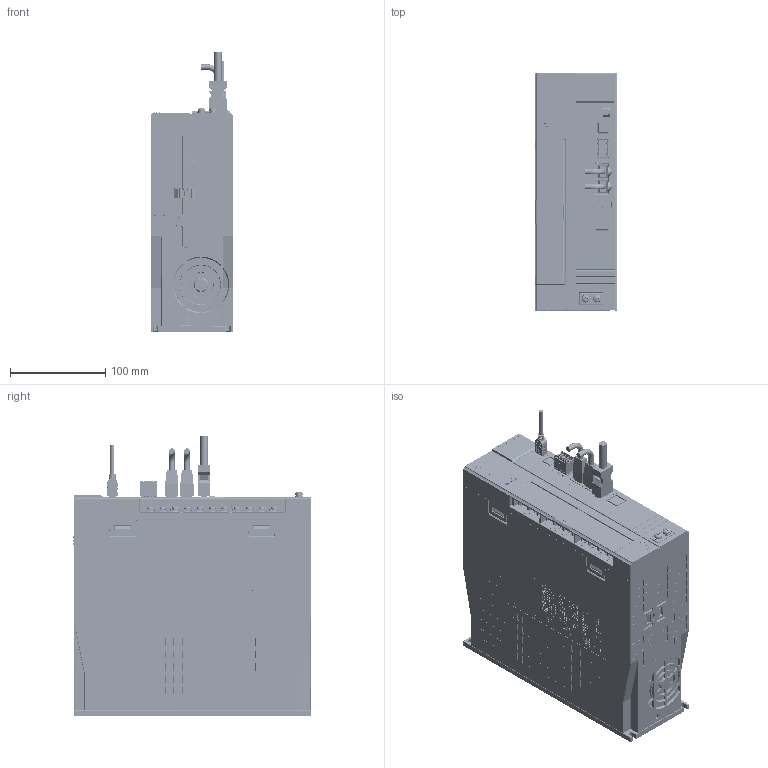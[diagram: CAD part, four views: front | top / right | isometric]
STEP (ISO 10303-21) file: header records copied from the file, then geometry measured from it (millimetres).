
FILE_DESCRIPTION(('CATIA V5 STEP Exchange'),'2;1');
FILE_NAME('C:\Users\xinje\Desktop\DS5C2-45P5-PTA-官网图+EPLAN图-240423.stp','2024-04-24T02:56:11+00:00',('none'),('none'),'CATIA Version 5 Release 20 GA (IN-10)','CATIA V5 STEP AP203','none');
FILE_SCHEMA(('CONFIG_CONTROL_DESIGN'));
Products named in the file (1): Document
Assembly tree (5 placements, depth 2):
  Document
    #58
    #122013
    #168606
    #172287
    #175970
Bounding box: 87 x 249.88 x 293.45 mm (x, y, z)
Volume: 887106 mm3; surface area: 829418.9 mm2
Topology: 811 solids, 1532 shells, 32586 faces, 96529 edges, 63950 vertices
Faces by surface type: plane 21419, bspline 5751, cylinder 5416
Entity records: 1437609 total; most frequent: CARTESIAN_POINT 667585, ORIENTED_EDGE 183829, DIRECTION 112328, EDGE_CURVE 95965, VERTEX_POINT 63955, VECTOR 54459, LINE 54459, EDGE_LOOP 34683
